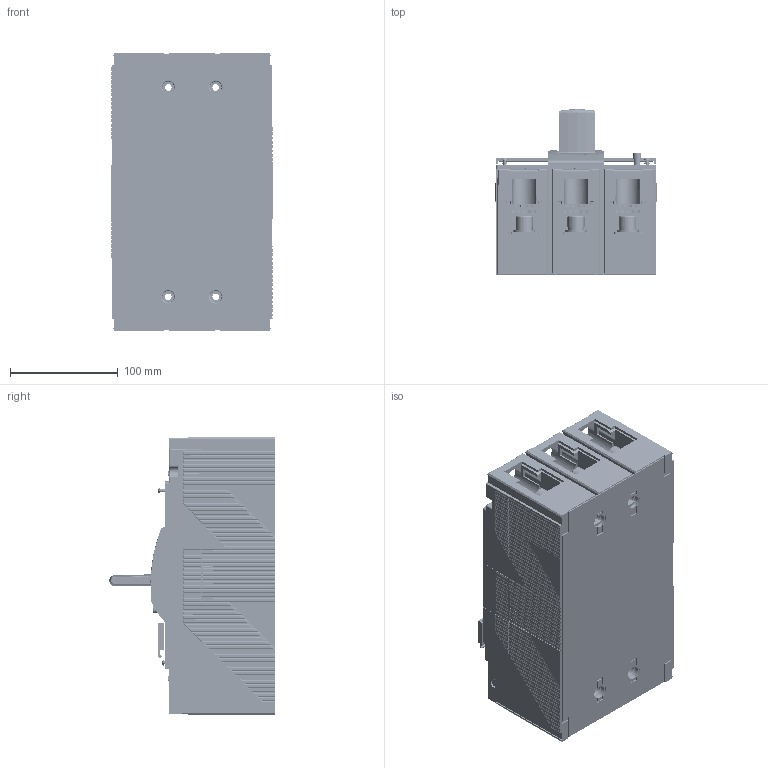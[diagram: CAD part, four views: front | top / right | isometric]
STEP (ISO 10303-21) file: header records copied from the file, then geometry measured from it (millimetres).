
FILE_DESCRIPTION (( 'STEP AP214' ), '1' );
FILE_NAME ('单热可调3P 2023.11.3 -630-3P.STEP', '2023-11-05T05:05:08', ( 'Maxge' ), ( '' ), 'SwSTEP 2.0', 'SolidWorks 2016', '' );
FILE_SCHEMA (( 'AUTOMOTIVE_DESIGN' ));
Length unit declared in the file: millimetre
Products named in the file (38): 3P菁啣8MG-050-909_1; D6_GB93_3_15_id440_x_t_1; D4_GB848_4_15_id484_x_t_1; M3X8_GB818_8_15_id362_x_t_1; 8RDMG.315.138.1奻裔_1; MGM3-400_X2_8FB963D27247_X0__id6_x_t_1; GBT6170____2_15_id812_x_t_1; 8MG.235.811.2 调节片20220608_1; MGM3-400-3_X2_70ED78C15F0F4E2D76D6_X0__id38_x_t_1; _X2_676067468F74_X0__id51_x_t_1; 8-742-319____2_15_id667_x_t_1; 8-742-561_______1_15_id640_x_t_1; 630A_ASM_id367_x_t_1; M4X20_GB818_8_15_id537_x_t_1; _X2_78C15B545C01585E_X0__id23_x_t_1; 8-205-037_1_15_id682_x_t_1; MGM3-400-3_X2_70ED78C15F0F4E2D76D6_X0__id33_x_t_1; 3x5_X2_5D4C4EF6_X0__id207_x_t_1; 5RDMG.024.113_X2_57FA5EA7FF08_X0_M3_X2_3001_X0_M3E-400__X2_FF09_X0_20190321_id77_x_t_1; M4X14_GB818_8_15_id495_x_t_1; _X2_70ED53EF8C035C01585E_X0__id28_x_t_1; D10_GB93_3_15_id99_x_t_1; m3-400_X2_501F75284EF6_X0__id359_x_t_1; 8MG.321.811.001-01 400A_X2_3000900F660E76D6_X0__id13_x__t_1; M3-400_X2_630994AE_X0__id316_x_t_1; D10_GB97_1_3_15_id89_x_t_1; D6_GB862_2_3_15_id451_x_t_1; 8-742-562_______1_15_id649_x_t_1; 单热可调3P 2023.11.3 -630-3P; M10X30_GB70_3_15_id94_x_t_1; D4_GB93_3_15_id473_x_t_1; _X2_676067467EC44EF6_X0__id48_x_t_1; 400(630)噙揖芛2_1; 400A-RYJ_id104_x_t_1; SGM6 400忒梟-1-1-1-1-1; M4X40_GB818_8_15_id462_x_t_1; 8-742-021_____3_15_id633_x_t_1; M4X16_GB818_8_15_id558_x_t_1
Assembly tree (122 placements, depth 4):
  单热可调3P 2023.11.3 -630-3P
    _X2_676067467EC44EF6_X0__id48_x_t_1
      _X2_676067468F74_X0__id51_x_t_1
    m3-400_X2_501F75284EF6_X0__id359_x_t_1
      630A_ASM_id367_x_t_1
        D10_GB97_1_3_15_id89_x_t_1  x6
        M10X30_GB70_3_15_id94_x_t_1  x6
        D10_GB93_3_15_id99_x_t_1  x6
        M3X8_GB818_8_15_id362_x_t_1  x3
        D6_GB93_3_15_id440_x_t_1  x4
        D6_GB862_2_3_15_id451_x_t_1  x4
        M4X40_GB818_8_15_id462_x_t_1  x4
        D4_GB93_3_15_id473_x_t_1  x16
        D4_GB848_4_15_id484_x_t_1  x16
        M4X14_GB818_8_15_id495_x_t_1  x2
        M4X20_GB818_8_15_id537_x_t_1  x3
        M4X16_GB818_8_15_id558_x_t_1  x3
        8-742-021_____3_15_id633_x_t_1
        8-742-561_______1_15_id640_x_t_1  x3
        8-742-562_______1_15_id649_x_t_1  x3
        8-742-319____2_15_id667_x_t_1  x3
        8-205-037_1_15_id682_x_t_1  x2
        GBT6170____2_15_id812_x_t_1  x6
      M3X8_GB818_8_15_id362_x_t_1
    D10_GB97_1_3_15_id89_x_t_1
    M10X30_GB70_3_15_id94_x_t_1
    D10_GB93_3_15_id99_x_t_1
    MGM3-400_X2_8FB963D27247_X0__id6_x_t_1  x2
    8MG.321.811.001-01 400A_X2_3000900F660E76D6_X0__id13_x__t_1
    _X2_78C15B545C01585E_X0__id23_x_t_1
    _X2_70ED53EF8C035C01585E_X0__id28_x_t_1
    MGM3-400-3_X2_70ED78C15F0F4E2D76D6_X0__id33_x_t_1
    MGM3-400-3_X2_70ED78C15F0F4E2D76D6_X0__id38_x_t_1
    5RDMG.024.113_X2_57FA5EA7FF08_X0_M3_X2_3001_X0_M3E-400__X2_FF09_X0_20190321_id77_x_t_1
    400A-RYJ_id104_x_t_1  x3
    3x5_X2_5D4C4EF6_X0__id207_x_t_1  x4
    M3-400_X2_630994AE_X0__id316_x_t_1
    8RDMG.315.138.1奻裔_1
    8MG.235.811.2 调节片20220608_1
    SGM6 400忒梟-1-1-1-1-1
    3P菁啣8MG-050-909_1
    400(630)噙揖芛2_1  x3
Bounding box: 149.6 x 153.24 x 257 mm (x, y, z)
Volume: 2902525.6 mm3; surface area: 567961 mm2
Topology: 114 solids, 118 shells, 10285 faces, 27177 edges, 17664 vertices
Faces by surface type: plane 7868, cylinder 1675, bspline 614, cone 118, torus 10
Entity records: 321944 total; most frequent: CARTESIAN_POINT 102718, ORIENTED_EDGE 34987, DIRECTION 25219, EDGE_CURVE 17515, VERTEX_POINT 11588, LINE 11065, VECTOR 11065, AXIS2_PLACEMENT_3D 7077
